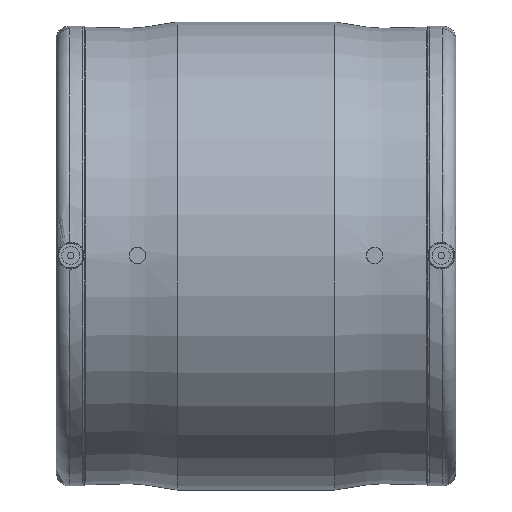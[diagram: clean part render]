
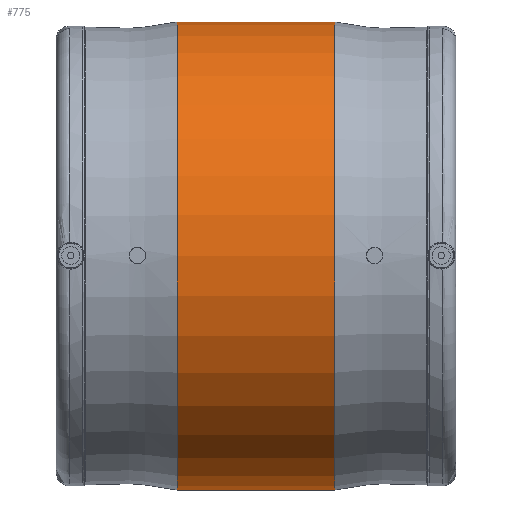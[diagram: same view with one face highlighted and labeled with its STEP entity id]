
A CAD part, top view. The second image highlights one B-rep face of the part: STEP entity #775.
In plain terms, the highlighted cylindrical face has radius 144 mm (diameter 288 mm), a full revolution.
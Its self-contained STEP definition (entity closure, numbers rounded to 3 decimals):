
#55=CYLINDRICAL_SURFACE('',#870,144.);
#249=ORIENTED_EDGE('',*,*,#398,.T.);
#250=ORIENTED_EDGE('',*,*,#399,.T.);
#398=EDGE_CURVE('',#478,#478,#531,.F.);
#399=EDGE_CURVE('',#479,#479,#532,.T.);
#478=VERTEX_POINT('',#1385);
#479=VERTEX_POINT('',#1387);
#531=CIRCLE('',#871,144.);
#532=CIRCLE('',#872,144.);
#590=EDGE_LOOP('',(#249));
#591=EDGE_LOOP('',(#250));
#676=FACE_BOUND('',#590,.T.);
#677=FACE_BOUND('',#591,.T.);
#775=ADVANCED_FACE('',(#676,#677),#55,.T.);
#870=AXIS2_PLACEMENT_3D('',#1383,#1054,#1055);
#871=AXIS2_PLACEMENT_3D('',#1384,#1056,#1057);
#872=AXIS2_PLACEMENT_3D('',#1386,#1058,#1059);
#1054=DIRECTION('',(-1.,0.,0.));
#1055=DIRECTION('',(0.,0.,1.));
#1056=DIRECTION('',(1.,0.,0.));
#1057=DIRECTION('',(0.,0.,-1.));
#1058=DIRECTION('',(1.,0.,0.));
#1059=DIRECTION('',(0.,0.,-1.));
#1383=CARTESIAN_POINT('',(-60.,0.,0.));
#1384=CARTESIAN_POINT('',(48.393,0.,0.));
#1385=CARTESIAN_POINT('',(48.393,0.,-144.));
#1386=CARTESIAN_POINT('',(-48.393,0.,0.));
#1387=CARTESIAN_POINT('',(-48.393,0.,-144.));
